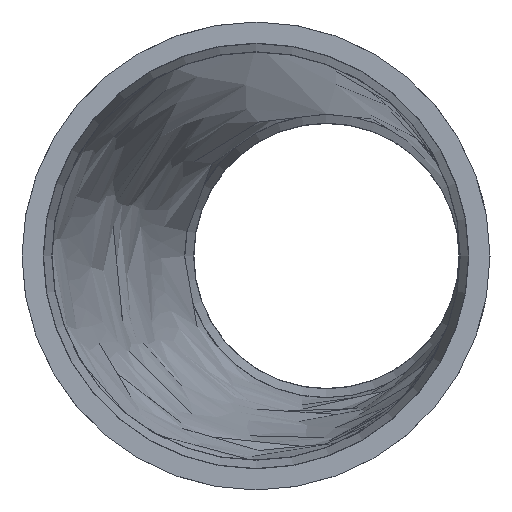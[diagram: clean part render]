
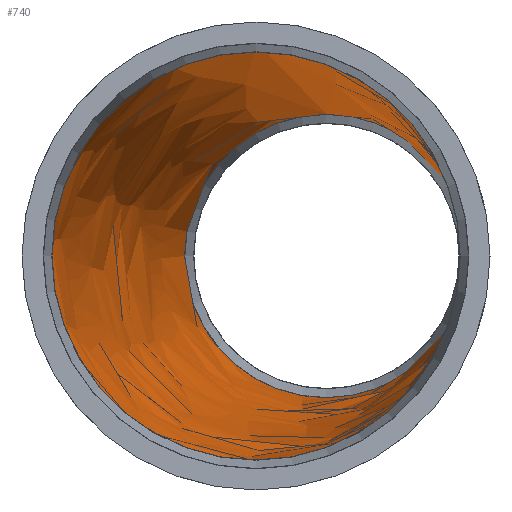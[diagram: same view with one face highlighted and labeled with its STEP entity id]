
A CAD part, left-side view. The second image highlights one B-rep face of the part: STEP entity #740.
In plain terms, the highlighted free-form (B-spline) face has degree [1, 2] with [2, 9] control points.
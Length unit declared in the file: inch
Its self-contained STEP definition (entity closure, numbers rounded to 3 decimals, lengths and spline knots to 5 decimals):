
#57=B_SPLINE_CURVE_WITH_KNOTS('',1,(#1365,#1366),.UNSPECIFIED.,.F.,.F.,
(2,2),(0.00017,6.01845),.UNSPECIFIED.);
#59=(
BOUNDED_SURFACE()
B_SPLINE_SURFACE(1,2,((#1347,#1348,#1349,#1350,#1351,#1352,#1353,#1354,
#1355),(#1356,#1357,#1358,#1359,#1360,#1361,#1362,#1363,#1364)),
 .UNSPECIFIED.,.F.,.T.,.F.)
B_SPLINE_SURFACE_WITH_KNOTS((2,2),(3,2,2,2,3),(-0.055,6.055),
(-3.14159,-1.5708,0.,1.5708,3.14159),
 .UNSPECIFIED.)
GEOMETRIC_REPRESENTATION_ITEM()
RATIONAL_B_SPLINE_SURFACE(((1.,0.707,1.,0.707,1.,
0.707,1.,0.707,1.),(1.,0.707,1.,0.707,
1.,0.707,1.,0.707,1.)))
REPRESENTATION_ITEM('')
SURFACE()
);
#127=FACE_OUTER_BOUND('',#159,.T.);
#159=EDGE_LOOP('',(#604,#605,#606,#607,#608,#609,#610,#611));
#209=CIRCLE('',#813,1.08);
#210=CIRCLE('',#814,1.08);
#211=CIRCLE('',#815,1.08);
#222=CIRCLE('',#829,0.72);
#223=CIRCLE('',#830,0.72);
#224=CIRCLE('',#831,0.72);
#296=VERTEX_POINT('',#1264);
#297=VERTEX_POINT('',#1265);
#298=VERTEX_POINT('',#1267);
#308=VERTEX_POINT('',#1294);
#309=VERTEX_POINT('',#1295);
#310=VERTEX_POINT('',#1297);
#387=EDGE_CURVE('',#296,#297,#209,.T.);
#388=EDGE_CURVE('',#297,#298,#210,.T.);
#390=EDGE_CURVE('',#298,#296,#211,.T.);
#402=EDGE_CURVE('',#308,#309,#222,.T.);
#403=EDGE_CURVE('',#309,#310,#223,.T.);
#405=EDGE_CURVE('',#310,#308,#224,.T.);
#429=EDGE_CURVE('',#297,#309,#57,.T.);
#604=ORIENTED_EDGE('',*,*,#387,.F.);
#605=ORIENTED_EDGE('',*,*,#390,.F.);
#606=ORIENTED_EDGE('',*,*,#388,.F.);
#607=ORIENTED_EDGE('',*,*,#429,.T.);
#608=ORIENTED_EDGE('',*,*,#402,.F.);
#609=ORIENTED_EDGE('',*,*,#405,.F.);
#610=ORIENTED_EDGE('',*,*,#403,.F.);
#611=ORIENTED_EDGE('',*,*,#429,.F.);
#740=ADVANCED_FACE('',(#127),#59,.T.);
#813=AXIS2_PLACEMENT_3D('',#1266,#992,#993);
#814=AXIS2_PLACEMENT_3D('',#1268,#994,#995);
#815=AXIS2_PLACEMENT_3D('',#1270,#997,#998);
#829=AXIS2_PLACEMENT_3D('',#1296,#1026,#1027);
#830=AXIS2_PLACEMENT_3D('',#1298,#1028,#1029);
#831=AXIS2_PLACEMENT_3D('',#1300,#1031,#1032);
#992=DIRECTION('center_axis',(1.,0.,0.));
#993=DIRECTION('ref_axis',(0.,1.,0.));
#994=DIRECTION('center_axis',(1.,0.,0.));
#995=DIRECTION('ref_axis',(0.,1.,0.));
#997=DIRECTION('center_axis',(1.,0.,0.));
#998=DIRECTION('ref_axis',(0.,1.,0.));
#1026=DIRECTION('center_axis',(-1.,0.,0.));
#1027=DIRECTION('ref_axis',(0.,-1.,0.));
#1028=DIRECTION('center_axis',(-1.,0.,0.));
#1029=DIRECTION('ref_axis',(0.,-1.,0.));
#1031=DIRECTION('center_axis',(-1.,0.,0.));
#1032=DIRECTION('ref_axis',(0.,-1.,0.));
#1264=CARTESIAN_POINT('',(1.26,1.08,0.));
#1265=CARTESIAN_POINT('',(1.26,-0.00329,1.07999));
#1266=CARTESIAN_POINT('Origin',(1.26,0.,0.));
#1267=CARTESIAN_POINT('',(1.26,-1.08,0.));
#1268=CARTESIAN_POINT('Origin',(1.26,0.,0.));
#1270=CARTESIAN_POINT('Origin',(1.26,0.,0.));
#1294=CARTESIAN_POINT('',(7.74,-1.0775,0.));
#1295=CARTESIAN_POINT('',(7.74,-0.35969,0.72));
#1296=CARTESIAN_POINT('Origin',(7.74,-0.3575,0.));
#1297=CARTESIAN_POINT('',(7.74,0.3625,0.));
#1298=CARTESIAN_POINT('Origin',(7.74,-0.3575,0.));
#1300=CARTESIAN_POINT('Origin',(7.74,-0.3575,0.));
#1347=CARTESIAN_POINT('Ctrl Pts',(1.2006,-0.00002,
1.0833));
#1348=CARTESIAN_POINT('Ctrl Pts',(1.1412,-1.08005,1.0833));
#1349=CARTESIAN_POINT('Ctrl Pts',(1.1412,-1.08005,0.));
#1350=CARTESIAN_POINT('Ctrl Pts',(1.1412,-1.08005,-1.0833));
#1351=CARTESIAN_POINT('Ctrl Pts',(1.2006,-0.00002,
-1.0833));
#1352=CARTESIAN_POINT('Ctrl Pts',(1.26,1.08,-1.0833));
#1353=CARTESIAN_POINT('Ctrl Pts',(1.26,1.08,0.));
#1354=CARTESIAN_POINT('Ctrl Pts',(1.26,1.08,1.0833));
#1355=CARTESIAN_POINT('Ctrl Pts',(1.2006,-0.00002,
1.0833));
#1356=CARTESIAN_POINT('Ctrl Pts',(7.77936,-0.36186,0.71781));
#1357=CARTESIAN_POINT('Ctrl Pts',(7.74,-1.0775,0.71781));
#1358=CARTESIAN_POINT('Ctrl Pts',(7.74,-1.0775,0.));
#1359=CARTESIAN_POINT('Ctrl Pts',(7.74,-1.0775,-0.71781));
#1360=CARTESIAN_POINT('Ctrl Pts',(7.77936,-0.36186,-0.71781));
#1361=CARTESIAN_POINT('Ctrl Pts',(7.81872,0.35378,-0.71781));
#1362=CARTESIAN_POINT('Ctrl Pts',(7.81872,0.35378,0.));
#1363=CARTESIAN_POINT('Ctrl Pts',(7.81872,0.35378,0.71781));
#1364=CARTESIAN_POINT('Ctrl Pts',(7.77936,-0.36186,0.71781));
#1365=CARTESIAN_POINT('Ctrl Pts',(1.26,-0.00329,1.07999));
#1366=CARTESIAN_POINT('Ctrl Pts',(7.74,-0.35969,0.72));
